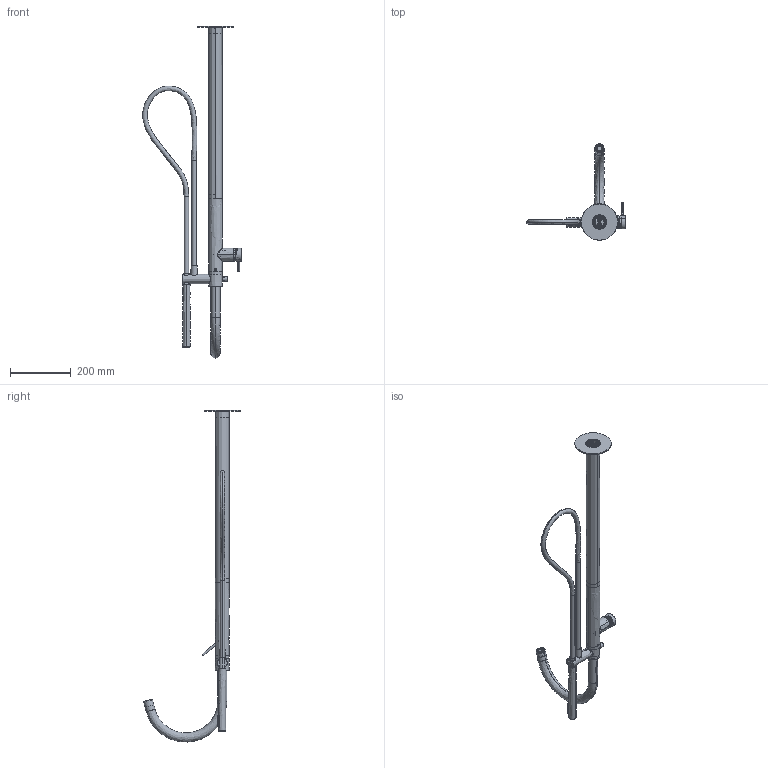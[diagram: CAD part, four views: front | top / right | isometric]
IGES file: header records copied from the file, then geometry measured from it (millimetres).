
Start section:  PTC IGES file: 69596.igs
Global section: file name: 69596.igs; native system: Creo Parametric by PTC Inc.; preprocessor: 2022014; author: carloff; organization: Unknown; date: 20250212.112747; units: millimetre
Bounding box: 324.81 x 319.46 x 1093.36 mm (x, y, z)
Surface area: 604345.2 mm2 (no closed solid volume)
Topology: 0 solids, 0 shells, 1845 faces, 9432 edges, 9406 vertices
Faces by surface type: revolution 1287, bspline 558
